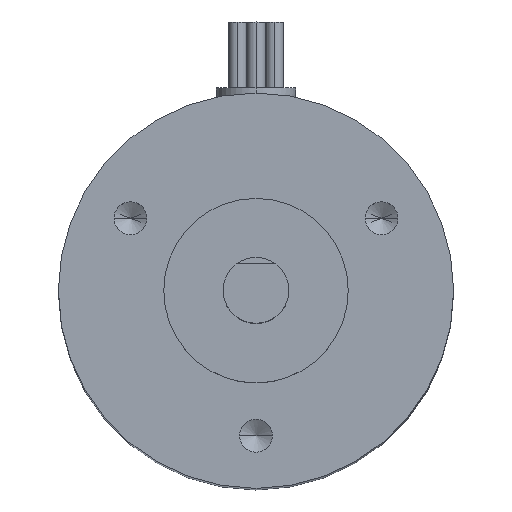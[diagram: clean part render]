
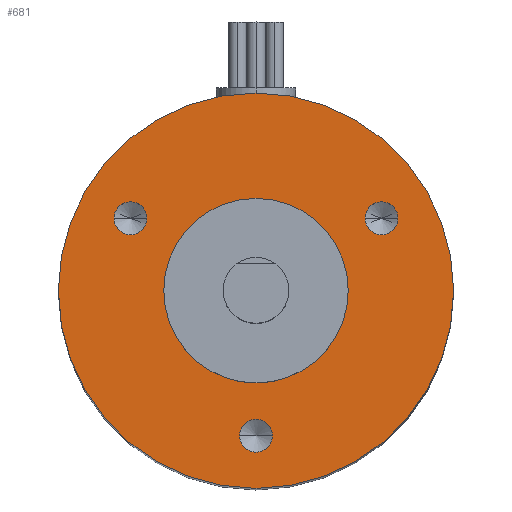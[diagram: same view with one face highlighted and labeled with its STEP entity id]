
A CAD part, top view. The second image highlights one B-rep face of the part: STEP entity #681.
In plain terms, the highlighted planar face has unit normal (0, 0, 1).
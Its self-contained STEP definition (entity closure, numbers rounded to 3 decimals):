
#8 = AXIS2_PLACEMENT_3D ( 'NONE', #282, #22, #122 ) ;
#10 = CIRCLE ( 'NONE', #768, 1.25 ) ;
#12 = CARTESIAN_POINT ( 'NONE',  ( 0., 0., 0. ) ) ;
#18 = CARTESIAN_POINT ( 'NONE',  ( -8.276, 5.5, 0. ) ) ;
#22 = DIRECTION ( 'NONE',  ( 0., 0., 1. ) ) ;
#23 = VERTEX_POINT ( 'NONE', #355 ) ;
#24 = EDGE_CURVE ( 'NONE', #899, #135, #1057, .T. ) ;
#43 = CARTESIAN_POINT ( 'NONE',  ( 0., 7., 0. ) ) ;
#64 = VERTEX_POINT ( 'NONE', #18 ) ;
#77 = DIRECTION ( 'NONE',  ( 0., 0., 1. ) ) ;
#80 = CARTESIAN_POINT ( 'NONE',  ( 0., 0., 0. ) ) ;
#85 = DIRECTION ( 'NONE',  ( 0., 0., 1. ) ) ;
#100 = AXIS2_PLACEMENT_3D ( 'NONE', #280, #196, #1038 ) ;
#111 = VERTEX_POINT ( 'NONE', #487 ) ;
#122 = DIRECTION ( 'NONE',  ( 1., 0., 0. ) ) ;
#128 = DIRECTION ( 'NONE',  ( 0., 0., -1. ) ) ;
#133 = FACE_BOUND ( 'NONE', #759, .T. ) ;
#135 = VERTEX_POINT ( 'NONE', #470 ) ;
#159 = ORIENTED_EDGE ( 'NONE', *, *, #921, .F. ) ;
#164 = AXIS2_PLACEMENT_3D ( 'NONE', #80, #882, #1121 ) ;
#186 = DIRECTION ( 'NONE',  ( 0., 0., 1. ) ) ;
#196 = DIRECTION ( 'NONE',  ( 0., 0., 1. ) ) ;
#198 = ORIENTED_EDGE ( 'NONE', *, *, #377, .F. ) ;
#202 = AXIS2_PLACEMENT_3D ( 'NONE', #439, #77, #433 ) ;
#227 = AXIS2_PLACEMENT_3D ( 'NONE', #542, #186, #293 ) ;
#232 = VERTEX_POINT ( 'NONE', #392 ) ;
#259 = EDGE_CURVE ( 'NONE', #111, #64, #457, .T. ) ;
#264 = CARTESIAN_POINT ( 'NONE',  ( 8.276, 5.5, 0. ) ) ;
#272 = CARTESIAN_POINT ( 'NONE',  ( 9.526, 5.5, 0. ) ) ;
#280 = CARTESIAN_POINT ( 'NONE',  ( 0., 0., 0. ) ) ;
#282 = CARTESIAN_POINT ( 'NONE',  ( -9.526, 5.5, 0. ) ) ;
#283 = VERTEX_POINT ( 'NONE', #737 ) ;
#285 = DIRECTION ( 'NONE',  ( 0., 0., 1. ) ) ;
#293 = DIRECTION ( 'NONE',  ( 1., 0., 0. ) ) ;
#299 = CIRCLE ( 'NONE', #591, 1.25 ) ;
#309 = FACE_BOUND ( 'NONE', #918, .T. ) ;
#311 = CARTESIAN_POINT ( 'NONE',  ( 9.526, 5.5, 0. ) ) ;
#318 = ORIENTED_EDGE ( 'NONE', *, *, #724, .T. ) ;
#319 = AXIS2_PLACEMENT_3D ( 'NONE', #43, #128, #939 ) ;
#353 = CARTESIAN_POINT ( 'NONE',  ( -15., 0., 0. ) ) ;
#355 = CARTESIAN_POINT ( 'NONE',  ( -7., 0., 0. ) ) ;
#377 = EDGE_CURVE ( 'NONE', #701, #678, #10, .T. ) ;
#392 = CARTESIAN_POINT ( 'NONE',  ( 1.25, -11., 0. ) ) ;
#415 = CARTESIAN_POINT ( 'NONE',  ( 0., -11., 0. ) ) ;
#433 = DIRECTION ( 'NONE',  ( 1., 0., 0. ) ) ;
#439 = CARTESIAN_POINT ( 'NONE',  ( 0., 0., 0. ) ) ;
#457 = CIRCLE ( 'NONE', #8, 1.25 ) ;
#470 = CARTESIAN_POINT ( 'NONE',  ( 15., 0., 0. ) ) ;
#478 = CARTESIAN_POINT ( 'NONE',  ( 10.776, 5.5, 0. ) ) ;
#487 = CARTESIAN_POINT ( 'NONE',  ( -10.776, 5.5, 0. ) ) ;
#492 = ORIENTED_EDGE ( 'NONE', *, *, #505, .F. ) ;
#503 = DIRECTION ( 'NONE',  ( 1., 0., 0. ) ) ;
#505 = EDGE_CURVE ( 'NONE', #283, #23, #874, .T. ) ;
#541 = VERTEX_POINT ( 'NONE', #553 ) ;
#542 = CARTESIAN_POINT ( 'NONE',  ( -9.526, 5.5, 0. ) ) ;
#553 = CARTESIAN_POINT ( 'NONE',  ( -1.25, -11., 0. ) ) ;
#566 = FACE_OUTER_BOUND ( 'NONE', #629, .T. ) ;
#583 = EDGE_CURVE ( 'NONE', #541, #232, #732, .T. ) ;
#591 = AXIS2_PLACEMENT_3D ( 'NONE', #272, #85, #809 ) ;
#629 = EDGE_LOOP ( 'NONE', ( #318, #821 ) ) ;
#637 = DIRECTION ( 'NONE',  ( 0., 0., 1. ) ) ;
#678 = VERTEX_POINT ( 'NONE', #478 ) ;
#681 = ADVANCED_FACE ( 'NONE', ( #829, #740, #133, #309, #566 ), #910, .F. ) ;
#693 = CIRCLE ( 'NONE', #785, 1.25 ) ;
#697 = ORIENTED_EDGE ( 'NONE', *, *, #893, .F. ) ;
#701 = VERTEX_POINT ( 'NONE', #264 ) ;
#724 = EDGE_CURVE ( 'NONE', #135, #899, #828, .T. ) ;
#732 = CIRCLE ( 'NONE', #1008, 1.25 ) ;
#737 = CARTESIAN_POINT ( 'NONE',  ( 7., 0., 0. ) ) ;
#740 = FACE_BOUND ( 'NONE', #769, .T. ) ;
#750 = CIRCLE ( 'NONE', #227, 1.25 ) ;
#755 = DIRECTION ( 'NONE',  ( 1., 0., 0. ) ) ;
#759 = EDGE_LOOP ( 'NONE', ( #159, #198 ) ) ;
#764 = ORIENTED_EDGE ( 'NONE', *, *, #583, .F. ) ;
#768 = AXIS2_PLACEMENT_3D ( 'NONE', #311, #912, #503 ) ;
#769 = EDGE_LOOP ( 'NONE', ( #814, #764 ) ) ;
#785 = AXIS2_PLACEMENT_3D ( 'NONE', #415, #988, #755 ) ;
#799 = EDGE_LOOP ( 'NONE', ( #697, #1065 ) ) ;
#809 = DIRECTION ( 'NONE',  ( 1., 0., 0. ) ) ;
#814 = ORIENTED_EDGE ( 'NONE', *, *, #854, .F. ) ;
#821 = ORIENTED_EDGE ( 'NONE', *, *, #24, .T. ) ;
#828 = CIRCLE ( 'NONE', #164, 15. ) ;
#829 = FACE_BOUND ( 'NONE', #799, .T. ) ;
#854 = EDGE_CURVE ( 'NONE', #232, #541, #693, .T. ) ;
#872 = AXIS2_PLACEMENT_3D ( 'NONE', #12, #637, #1117 ) ;
#874 = CIRCLE ( 'NONE', #202, 7. ) ;
#882 = DIRECTION ( 'NONE',  ( 0., 0., 1. ) ) ;
#886 = EDGE_CURVE ( 'NONE', #23, #283, #1060, .T. ) ;
#893 = EDGE_CURVE ( 'NONE', #64, #111, #750, .T. ) ;
#899 = VERTEX_POINT ( 'NONE', #353 ) ;
#910 = PLANE ( 'NONE',  #319 ) ;
#912 = DIRECTION ( 'NONE',  ( 0., 0., 1. ) ) ;
#918 = EDGE_LOOP ( 'NONE', ( #492, #1022 ) ) ;
#921 = EDGE_CURVE ( 'NONE', #678, #701, #299, .T. ) ;
#939 = DIRECTION ( 'NONE',  ( -1., 0., 0. ) ) ;
#962 = DIRECTION ( 'NONE',  ( 1., 0., 0. ) ) ;
#988 = DIRECTION ( 'NONE',  ( 0., 0., 1. ) ) ;
#1008 = AXIS2_PLACEMENT_3D ( 'NONE', #1122, #285, #962 ) ;
#1022 = ORIENTED_EDGE ( 'NONE', *, *, #886, .F. ) ;
#1038 = DIRECTION ( 'NONE',  ( 1., 0., 0. ) ) ;
#1057 = CIRCLE ( 'NONE', #872, 15. ) ;
#1060 = CIRCLE ( 'NONE', #100, 7. ) ;
#1065 = ORIENTED_EDGE ( 'NONE', *, *, #259, .F. ) ;
#1117 = DIRECTION ( 'NONE',  ( 1., 0., 0. ) ) ;
#1121 = DIRECTION ( 'NONE',  ( 1., 0., 0. ) ) ;
#1122 = CARTESIAN_POINT ( 'NONE',  ( 0., -11., 0. ) ) ;
